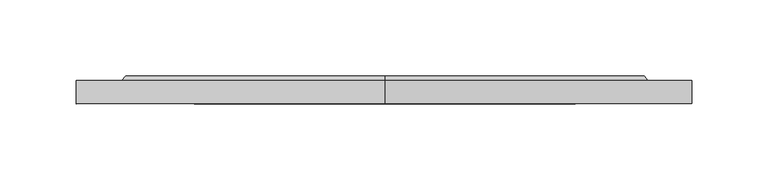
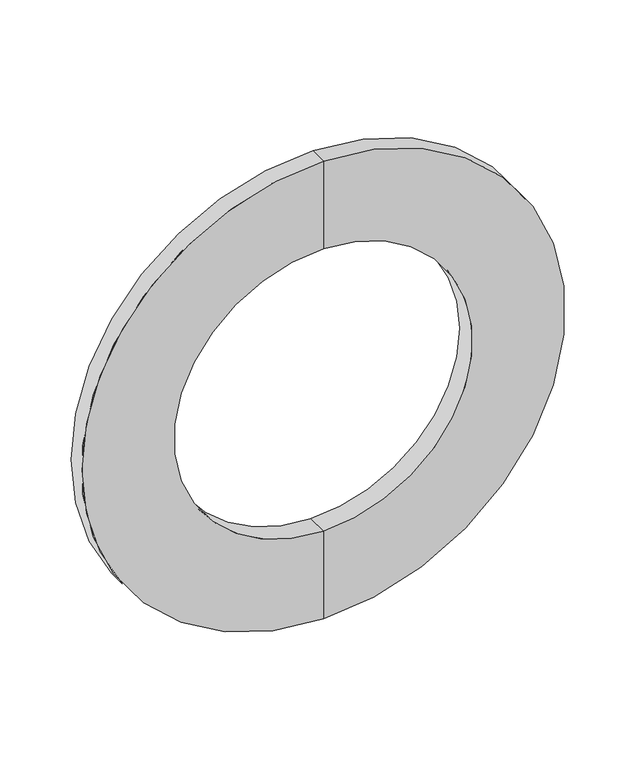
"""IFC4 building model written with IfcOpenShell, lengths in millimetres: pipe fitting geometry, Фланец : Фланец."""

from ifc_helpers import new_model, si_unit, frame, origin, place, context, project, spatial, polyline, circle_curve, source, transform, mapped, element, save
from ifc_brep_helpers import plane_surface, cylinder_surface, revolved_surface, advanced_brep


def pipe_fitting_f310c70f(model_context):
    return source(origin(), model_context, "Body", "AdvancedBrep", [
        advanced_brep(
        [(0.0, 0.0, -202.5), (0.0, 0.0, 202.5), (0.0, 15.2, 202.5), (0.0, 15.2, -202.5), (0.0, 0.0, -125.0), (0.0, 0.0, 125.0), (0.0, 18.2, -125.0), (0.0, 18.2, 125.0), (0.0, 18.2, -171.0), (0.0, 18.2, 171.0), (0.0, 15.2, -173.5), (0.0, 15.2, 173.5)],
        [
            (0, 1, circle_curve(frame((0.0, 0.0, 0.0), z_axis=(0.0, 1.0, 0.0), x_axis=(0.0, 0.0, 1.0)), 202.5)),
            (1, 2),
            (2, 3, circle_curve(frame((0.0, 15.2, 0.0), z_axis=(0.0, -1.0, 0.0), x_axis=(0.0, 0.0, 1.0)), 202.5)),
            (3, 0),
            (1, 0, circle_curve(frame((0.0, 0.0, 0.0), z_axis=(0.0, 1.0, 0.0), x_axis=(0.0, 0.0, 1.0)), 202.5)),
            (3, 2, circle_curve(frame((0.0, 15.2, 0.0), z_axis=(0.0, -1.0, 0.0), x_axis=(0.0, 0.0, 1.0)), 202.5)),
            (4, 5, circle_curve(frame((0.0, 0.0, 0.0), z_axis=(0.0, 1.0, 0.0), x_axis=(0.0, 0.0, 1.0)), 125.0)),
            (5, 1),
            (0, 4),
            (5, 4, circle_curve(frame((0.0, 0.0, 0.0), z_axis=(0.0, 1.0, 0.0), x_axis=(0.0, 0.0, 1.0)), 125.0)),
            (6, 7, circle_curve(frame((0.0, 18.2, 0.0), z_axis=(0.0, 1.0, 0.0), x_axis=(0.0, 0.0, 1.0)), 125.0)),
            (7, 5),
            (4, 6),
            (7, 6, circle_curve(frame((0.0, 18.2, 0.0), z_axis=(0.0, 1.0, 0.0), x_axis=(0.0, 0.0, 1.0)), 125.0)),
            (8, 9, circle_curve(frame((0.0, 18.2, 0.0), z_axis=(0.0, 1.0, 0.0), x_axis=(0.0, 0.0, 1.0)), 171.0)),
            (9, 7),
            (6, 8),
            (9, 8, circle_curve(frame((0.0, 18.2, 0.0), z_axis=(0.0, 1.0, 0.0), x_axis=(0.0, 0.0, 1.0)), 171.0)),
            (10, 11, circle_curve(frame((0.0, 15.2, 0.0), z_axis=(0.0, 1.0, 0.0), x_axis=(0.0, 0.0, 1.0)), 173.5)),
            (11, 9),
            (8, 10),
            (11, 10, circle_curve(frame((0.0, 15.2, 0.0), z_axis=(0.0, 1.0, 0.0), x_axis=(0.0, 0.0, 1.0)), 173.5)),
            (2, 11),
            (10, 3),
        ],
        [
            cylinder_surface(frame((0.0, -60.0, 0.0), z_axis=(0.0, -1.0, 0.0), x_axis=(0.0, 0.0, 1.0)), 202.5),
            plane_surface(frame((0.0, 0.0, 0.0), z_axis=(0.0, -1.0, 0.0), x_axis=(0.0, 0.0, 1.0))),
            revolved_surface(polyline([(0.0, 0.0, 125.0), (0.0, 18.200000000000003, 125.0)]), (0.0, -60.0, 0.0), (0.0, -1.0, 0.0)),
            plane_surface(frame((0.0, 18.2, 0.0), z_axis=(0.0, 1.0, 0.0), x_axis=(0.0, 0.0, 1.0))),
            revolved_surface(polyline([(0.0, 18.2, 171.0), (0.0, 15.2, 173.5)]), (0.0, -60.0, 0.0), (0.0, -1.0, 0.0)),
            plane_surface(frame((0.0, 15.2, 0.0), z_axis=(0.0, 1.0, 0.0), x_axis=(0.0, 0.0, 1.0))),
        ],
        [
            (0, [[1, 2, 3, 4]]),
            (0, [[5, -4, 6, -2]]),
            (1, [[7, 8, -1, 9]]),
            (1, [[10, -9, -5, -8]]),
            (2, [[11, 12, -7, 13]]),
            (2, [[14, -13, -10, -12]]),
            (3, [[15, 16, -11, 17]]),
            (3, [[18, -17, -14, -16]]),
            (4, [[19, 20, -15, 21]]),
            (4, [[22, -21, -18, -20]]),
            (5, [[-3, 23, -19, 24]]),
            (5, [[-6, -24, -22, -23]]),
        ],
    ),
    ])


if __name__ == "__main__":
    model = new_model("IFC4")
    model_context = context("Model", 3, world=origin())
    ifc_project = project(units=[si_unit("LENGTHUNIT", "METRE", prefix="MILLI")], contexts=[model_context])
    site = spatial("IfcSite", under=ifc_project)
    building = spatial("IfcBuilding", under=site)
    placement = place(None, origin())
    pipe_fitting_shape = pipe_fitting_f310c70f(model_context)
    element("IfcPipeFitting", 1, ObjectType="Фланец : Фланец", at=placement, inside=building, context=model_context, shape_type="MappedRepresentation", body=[
        mapped(pipe_fitting_shape, transform((0.0, 0.0, 0.0), x_axis=(1.0, 0.0, 0.0), y_axis=(0.0, 1.0, 0.0), z_axis=(0.0, 0.0, 1.0))),
    ])
    save(model, "model.ifc")
